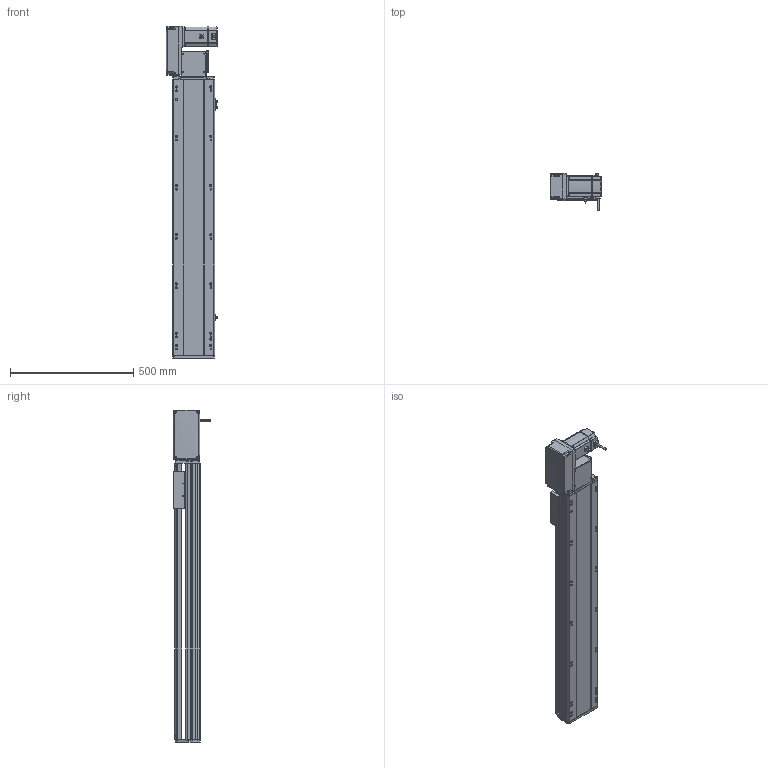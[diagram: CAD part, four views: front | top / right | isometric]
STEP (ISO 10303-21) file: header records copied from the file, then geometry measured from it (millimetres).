
FILE_DESCRIPTION (( 'STEP AP214' ), '1' );
FILE_NAME ('RTB17S-XX-850-L-M75-C4.STEP', '2025-12-12T00:12:26', ( '' ), ( '' ), 'SwSTEP 2.0', 'SolidWorks 2018', '' );
FILE_SCHEMA (( 'AUTOMOTIVE_DESIGN' ));
Length unit declared in the file: millimetre
Products named in the file (15): RTB22S-GY-017P^RTB17S-L-々湍釱蚾饜-750W_RTB17S-XX-XX-L-M75-C4; RTB22S-GY-018P^RTB17S-L-々湍釱蚾饜-750W_RTB17S-XX-XX-L-M75-C4; RTB22S-GY-008-M75--萇儂啣^RTB17S-L-々湍釱蚾饜-750W_RTB17S-XX-XX-L-M75-C4; RTB17S-賑釱^RTB17S-XX-XX-L-M75-C4; RTH13-BL-012覜茼え俋离^RTB17S-賑釱_RTB17S-XX-XX-L-M75-C4; RTB17S-L-001-耜醱啣^RTB17S-XX-XX-L-M75-C4; RMP17S-L-014-T20-P75--々湍釱^RTB17S-L-々湍釱蚾饜-750W_RTB17S-XX-XX-L-M75-C4; RTB17S-XX-850-L-M75-C4; RTB17-R-011菁釱^RTB17S-XX-XX-L-M75-C4; RTB22S-GY-005P^RTB17S-L-々湍釱蚾饜-750W_RTB17S-XX-XX-L-M75-C4; RTB17S-L-007奻裔^RTB17S-XX-XX-L-M75-C4; RTB17S-L-004-賑釱^RTB17S-賑釱_RTB17S-XX-XX-L-M75-C4; EE672^RTB17S-XX-XX-L-M75-C4; RTB17S-L-々湍釱蚾饜-750W^RTB17S-XX-XX-L-M75-C4; 750W萇儂^RTB17S-XX-XX-L-M75-C4
Assembly tree (17 placements, depth 3):
  RTB17S-XX-850-L-M75-C4
    RTB17-R-011菁釱^RTB17S-XX-XX-L-M75-C4
    EE672^RTB17S-XX-XX-L-M75-C4  x3
    RTB17S-L-001-耜醱啣^RTB17S-XX-XX-L-M75-C4
    RTB17S-賑釱^RTB17S-XX-XX-L-M75-C4
      RTB17S-L-004-賑釱^RTB17S-賑釱_RTB17S-XX-XX-L-M75-C4
      RTH13-BL-012覜茼え俋离^RTB17S-賑釱_RTB17S-XX-XX-L-M75-C4
    RTB17S-L-007奻裔^RTB17S-XX-XX-L-M75-C4
    750W萇儂^RTB17S-XX-XX-L-M75-C4
    RTB17S-L-々湍釱蚾饜-750W^RTB17S-XX-XX-L-M75-C4
      RMP17S-L-014-T20-P75--々湍釱^RTB17S-L-々湍釱蚾饜-750W_RTB17S-XX-XX-L-M75-C4
      RTB22S-GY-005P^RTB17S-L-々湍釱蚾饜-750W_RTB17S-XX-XX-L-M75-C4
      RTB22S-GY-017P^RTB17S-L-々湍釱蚾饜-750W_RTB17S-XX-XX-L-M75-C4  x2
      RTB22S-GY-008-M75--萇儂啣^RTB17S-L-々湍釱蚾饜-750W_RTB17S-XX-XX-L-M75-C4
      RTB22S-GY-018P^RTB17S-L-々湍釱蚾饜-750W_RTB17S-XX-XX-L-M75-C4
Bounding box: 210.4 x 152.7 x 1349 mm (x, y, z)
Volume: 11258223 mm3; surface area: 1888468.3 mm2
Topology: 17 solids, 17 shells, 2089 faces, 5782 edges, 3734 vertices
Faces by surface type: plane 970, cylinder 703, bspline 294, cone 110, sphere 8, torus 4
Entity records: 58102 total; most frequent: CARTESIAN_POINT 17046, ORIENTED_EDGE 8408, DIRECTION 7862, EDGE_CURVE 4204, AXIS2_PLACEMENT_3D 2754, VERTEX_POINT 2738, VECTOR 2354, LINE 2354
